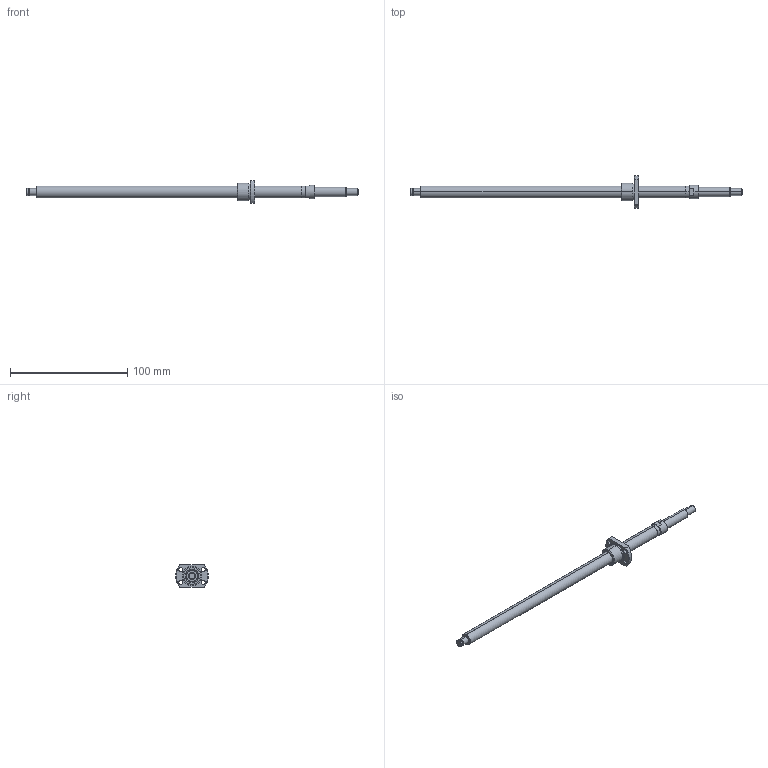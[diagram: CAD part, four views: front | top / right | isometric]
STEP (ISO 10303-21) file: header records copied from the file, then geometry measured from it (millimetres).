
FILE_DESCRIPTION (( 'STEP AP214' ), '1' );
FILE_NAME ('BS1001K-3D.STEP', '2014-03-05T15:10:27', ( '' ), ( '' ), 'SwSTEP 2.0', 'SolidWorks 2012', '' );
FILE_SCHEMA (( 'AUTOMOTIVE_DESIGN' ));
Length unit declared in the file: millimetre
Products named in the file (3): BS1001K-3D; BS1001KŽ²; BS1001Kナット
Assembly tree (2 placements, depth 2):
  BS1001K-3D
    BS1001KŽ²
    BS1001Kナット
Bounding box: 283 x 27.9 x 19 mm (x, y, z)
Volume: 38438.5 mm3; surface area: 17688.3 mm2
Topology: 3 solids, 3 shells, 80 faces, 176 edges, 112 vertices
Faces by surface type: cylinder 36, cone 22, plane 22
Entity records: 2381 total; most frequent: DIRECTION 432, CARTESIAN_POINT 409, ORIENTED_EDGE 352, AXIS2_PLACEMENT_3D 183, EDGE_CURVE 176, VERTEX_POINT 112, EDGE_LOOP 100, CIRCLE 98
